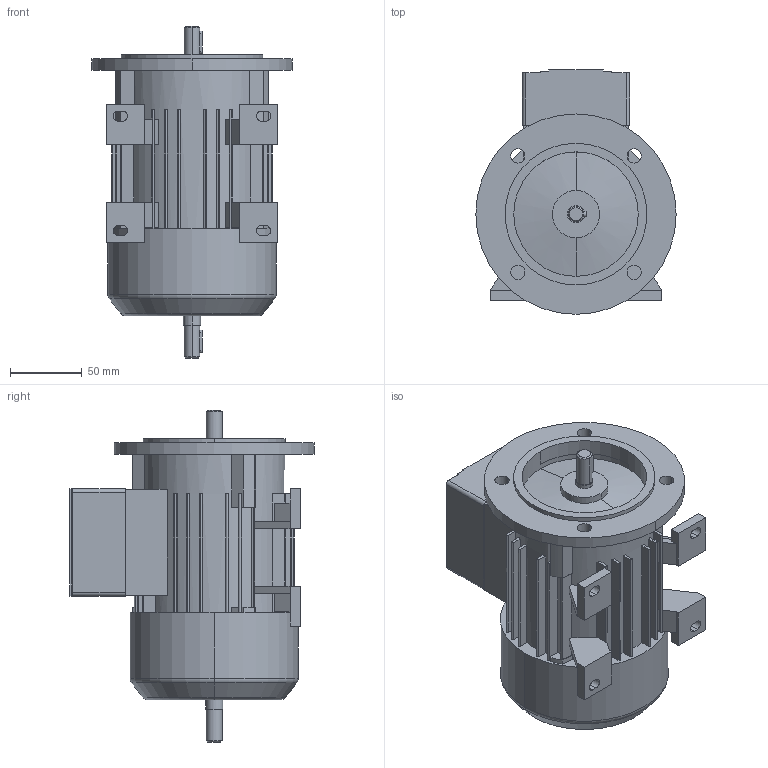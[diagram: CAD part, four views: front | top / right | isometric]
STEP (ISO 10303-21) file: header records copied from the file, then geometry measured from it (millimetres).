
FILE_DESCRIPTION((''),'2;1');
FILE_NAME('1LA7060-2AA16-Z-K16_PRT','2002-04-12T',('martin könig'),(''),'PRO/ENGINEER BY PARAMETRIC TECHNOLOGY CORPORATION, 2002030','PRO/ENGINEER BY PARAMETRIC TECHNOLOGY CORPORATION, 2002030','');
FILE_SCHEMA(('CONFIG_CONTROL_DESIGN'));
Length unit declared in the file: millimetre
Products named in the file (1): 1LA7060-2AA16-Z-K16_PRT
Bounding box: 140 x 171 x 232 mm (x, y, z)
Volume: 1940980.9 mm3; surface area: 155888.8 mm2
Topology: 1 solids, 1 shells, 300 faces, 838 edges, 552 vertices
Faces by surface type: plane 198, cylinder 90, cone 8, torus 4
Entity records: 9798 total; most frequent: CARTESIAN_POINT 1766, DIRECTION 1692, ORIENTED_EDGE 1676, EDGE_CURVE 838, VECTOR 576, LINE 576, AXIS2_PLACEMENT_3D 558, VERTEX_POINT 552
